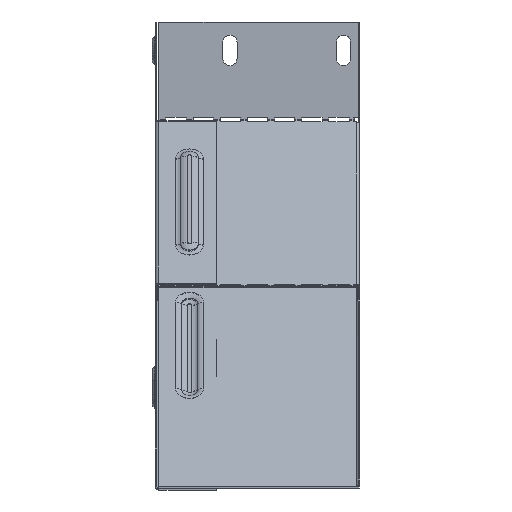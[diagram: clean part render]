
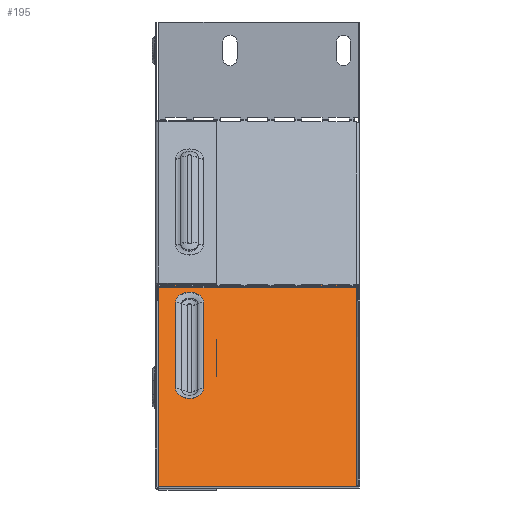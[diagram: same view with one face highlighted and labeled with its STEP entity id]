
A CAD part, left-side view. The second image highlights one B-rep face of the part: STEP entity #195.
In plain terms, the highlighted planar face has unit normal (-0.707, 0, 0.707).
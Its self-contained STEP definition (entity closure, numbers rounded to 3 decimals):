
#195 = ADVANCED_FACE ( 'NONE', ( #11266, #1294 ), #490, .T. ) ;
#258 = DIRECTION ( 'NONE',  ( 0., 1., 0. ) ) ;
#490 = PLANE ( 'NONE',  #1524 ) ;
#647 = AXIS2_PLACEMENT_3D ( 'NONE', #5214, #6522, #12768 ) ;
#969 = EDGE_CURVE ( 'NONE', #16302, #2440, #6288, .T. ) ;
#1064 = LINE ( 'NONE', #6452, #12038 ) ;
#1294 = FACE_OUTER_BOUND ( 'NONE', #10213, .T. ) ;
#1346 = VERTEX_POINT ( 'NONE', #18124 ) ;
#1524 = AXIS2_PLACEMENT_3D ( 'NONE', #6691, #11236, #11313 ) ;
#2012 = ORIENTED_EDGE ( 'NONE', *, *, #14771, .F. ) ;
#2153 = CARTESIAN_POINT ( 'NONE',  ( 44.434, 76.183, -44.434 ) ) ;
#2440 = VERTEX_POINT ( 'NONE', #12124 ) ;
#3389 = EDGE_CURVE ( 'NONE', #18211, #18885, #8761, .T. ) ;
#3557 = LINE ( 'NONE', #13080, #3792 ) ;
#3661 = CARTESIAN_POINT ( 'NONE',  ( 23.221, 90.017, -65.648 ) ) ;
#3792 = VECTOR ( 'NONE', #8524, 1000. ) ;
#3835 = EDGE_CURVE ( 'NONE', #18885, #5536, #19579, .T. ) ;
#3929 = ORIENTED_EDGE ( 'NONE', *, *, #969, .F. ) ;
#3947 = EDGE_CURVE ( 'NONE', #1346, #18211, #4026, .T. ) ;
#4026 = LINE ( 'NONE', #14827, #7594 ) ;
#4059 = ORIENTED_EDGE ( 'NONE', *, *, #8697, .F. ) ;
#4394 = DIRECTION ( 'NONE',  ( -0.707, 0., 0.707 ) ) ;
#5199 = LINE ( 'NONE', #18615, #6835 ) ;
#5214 = CARTESIAN_POINT ( 'NONE',  ( 65.648, 83.1, -23.221 ) ) ;
#5469 = EDGE_CURVE ( 'NONE', #16302, #11096, #1064, .T. ) ;
#5536 = VERTEX_POINT ( 'NONE', #9746 ) ;
#5867 = CARTESIAN_POINT ( 'NONE',  ( 114.123, 1., 25.255 ) ) ;
#6288 = LINE ( 'NONE', #16557, #19444 ) ;
#6309 = ORIENTED_EDGE ( 'NONE', *, *, #3389, .F. ) ;
#6452 = CARTESIAN_POINT ( 'NONE',  ( 114.123, 0., 25.255 ) ) ;
#6522 = DIRECTION ( 'NONE',  ( -0.707, 0., 0.707 ) ) ;
#6691 = CARTESIAN_POINT ( 'NONE',  ( 44.434, 0., -44.434 ) ) ;
#6835 = VECTOR ( 'NONE', #8023, 1000. ) ;
#7594 = VECTOR ( 'NONE', #8499, 1000. ) ;
#7619 = AXIS2_PLACEMENT_3D ( 'NONE', #13576, #4394, #16497 ) ;
#8023 = DIRECTION ( 'NONE',  ( 0.707, 0., 0.707 ) ) ;
#8042 = ORIENTED_EDGE ( 'NONE', *, *, #3835, .F. ) ;
#8499 = DIRECTION ( 'NONE',  ( -0.707, 0., -0.707 ) ) ;
#8524 = DIRECTION ( 'NONE',  ( 0., 1., 0. ) ) ;
#8697 = EDGE_CURVE ( 'NONE', #2440, #10746, #3557, .T. ) ;
#8761 = CIRCLE ( 'NONE', #7619, 6.917 ) ;
#9746 = CARTESIAN_POINT ( 'NONE',  ( 65.648, 76.183, -23.221 ) ) ;
#10213 = EDGE_LOOP ( 'NONE', ( #3929, #10810, #2012, #4059 ) ) ;
#10624 = CARTESIAN_POINT ( 'NONE',  ( -25.255, 98.2, -114.123 ) ) ;
#10746 = VERTEX_POINT ( 'NONE', #10624 ) ;
#10769 = CARTESIAN_POINT ( 'NONE',  ( 23.221, 76.183, -65.648 ) ) ;
#10810 = ORIENTED_EDGE ( 'NONE', *, *, #5469, .T. ) ;
#11096 = VERTEX_POINT ( 'NONE', #15770 ) ;
#11236 = DIRECTION ( 'NONE',  ( -0.707, 0., 0.707 ) ) ;
#11266 = FACE_BOUND ( 'NONE', #16026, .T. ) ;
#11313 = DIRECTION ( 'NONE',  ( 0.707, 0., 0.707 ) ) ;
#12038 = VECTOR ( 'NONE', #258, 1000. ) ;
#12124 = CARTESIAN_POINT ( 'NONE',  ( -25.255, 1., -114.123 ) ) ;
#12768 = DIRECTION ( 'NONE',  ( 0., 1., 0. ) ) ;
#13055 = VECTOR ( 'NONE', #14443, 1000. ) ;
#13080 = CARTESIAN_POINT ( 'NONE',  ( -25.255, 0., -114.123 ) ) ;
#13153 = EDGE_CURVE ( 'NONE', #5536, #1346, #17058, .T. ) ;
#13495 = DIRECTION ( 'NONE',  ( -0.707, 0., -0.707 ) ) ;
#13576 = CARTESIAN_POINT ( 'NONE',  ( 23.221, 83.1, -65.648 ) ) ;
#14443 = DIRECTION ( 'NONE',  ( 0.707, 0., 0.707 ) ) ;
#14771 = EDGE_CURVE ( 'NONE', #10746, #11096, #5199, .T. ) ;
#14827 = CARTESIAN_POINT ( 'NONE',  ( 44.434, 90.017, -44.434 ) ) ;
#15607 = ORIENTED_EDGE ( 'NONE', *, *, #13153, .F. ) ;
#15770 = CARTESIAN_POINT ( 'NONE',  ( 114.123, 98.2, 25.255 ) ) ;
#16026 = EDGE_LOOP ( 'NONE', ( #6309, #19178, #15607, #8042 ) ) ;
#16302 = VERTEX_POINT ( 'NONE', #5867 ) ;
#16497 = DIRECTION ( 'NONE',  ( 0., 1., 0. ) ) ;
#16557 = CARTESIAN_POINT ( 'NONE',  ( 114.434, 1., 25.566 ) ) ;
#17058 = CIRCLE ( 'NONE', #647, 6.917 ) ;
#18124 = CARTESIAN_POINT ( 'NONE',  ( 65.648, 90.017, -23.221 ) ) ;
#18211 = VERTEX_POINT ( 'NONE', #3661 ) ;
#18615 = CARTESIAN_POINT ( 'NONE',  ( 114.434, 98.2, 25.566 ) ) ;
#18885 = VERTEX_POINT ( 'NONE', #10769 ) ;
#19178 = ORIENTED_EDGE ( 'NONE', *, *, #3947, .F. ) ;
#19444 = VECTOR ( 'NONE', #13495, 1000. ) ;
#19579 = LINE ( 'NONE', #2153, #13055 ) ;
